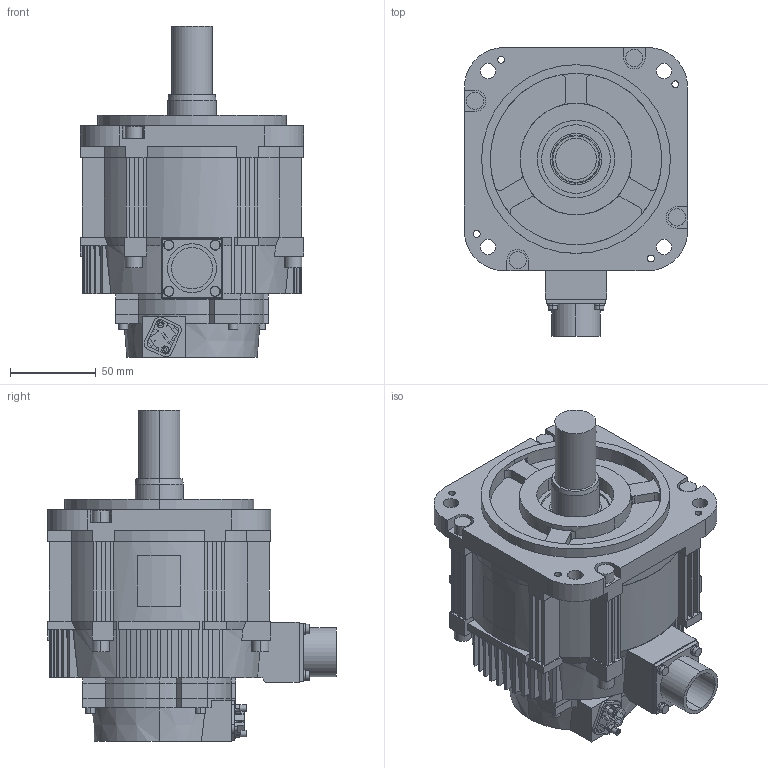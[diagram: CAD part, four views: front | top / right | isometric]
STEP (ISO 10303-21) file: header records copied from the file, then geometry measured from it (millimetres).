
FILE_DESCRIPTION (( 'STEP AP214' ), '1' );
FILE_NAME ('sgmxg_09aua21a1.STEP', '2021-09-29T01:14:58', ( '' ), ( '' ), 'SwSTEP 2.0', 'SolidWorks 2016', '' );
FILE_SCHEMA (( 'AUTOMOTIVE_DESIGN' ));
Length unit declared in the file: millimetre
Products named in the file (2): sgmxg_09aua21a1
Bounding box: 130 x 168.2 x 193.2 mm (x, y, z)
Volume: 1596497.1 mm3; surface area: 131928 mm2
Topology: 1 solids, 1 shells, 738 faces, 2027 edges, 1340 vertices
Faces by surface type: plane 474, cylinder 202, cone 62
Entity records: 25142 total; most frequent: CARTESIAN_POINT 4566, ORIENTED_EDGE 4054, DIRECTION 3948, EDGE_CURVE 2027, VERTEX_POINT 1340, VECTOR 1334, LINE 1334, AXIS2_PLACEMENT_3D 1307
